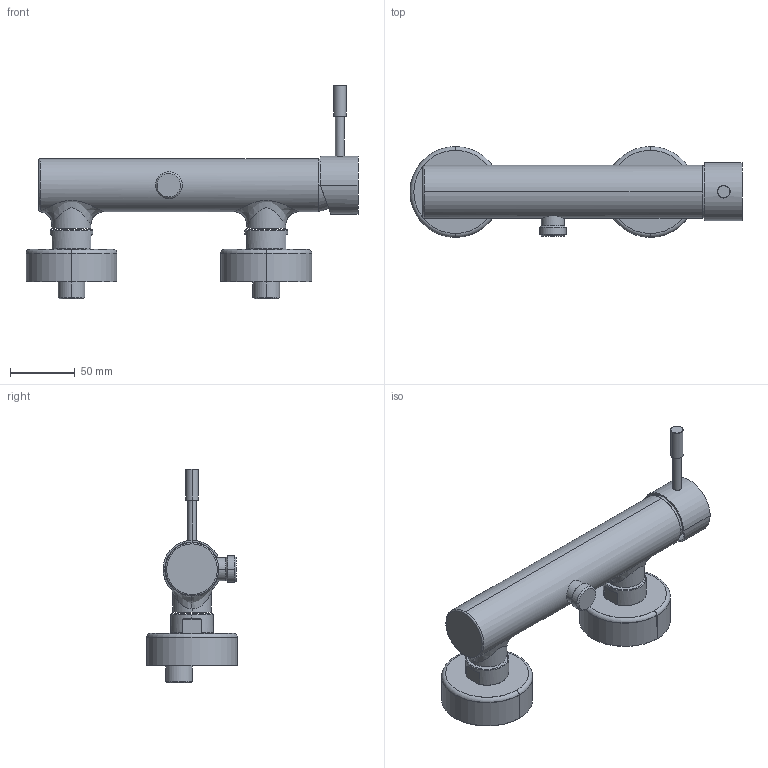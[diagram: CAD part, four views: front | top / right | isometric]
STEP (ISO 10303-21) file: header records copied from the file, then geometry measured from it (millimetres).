
FILE_DESCRIPTION((''),'2;1');
FILE_NAME('F3245_FILE_3D','2014-09-01T',('ivanv'),(''),'PRO/ENGINEER BY PARAMETRIC TECHNOLOGY CORPORATION, 2012130','PRO/ENGINEER BY PARAMETRIC TECHNOLOGY CORPORATION, 2012130','');
FILE_SCHEMA(('CONFIG_CONTROL_DESIGN'));
Length unit declared in the file: millimetre
Products named in the file (1): F3245_FILE_3D
Bounding box: 255.6 x 70 x 164.5 mm (x, y, z)
Volume: 203802.3 mm3; surface area: 141316.3 mm2
Topology: 4 solids, 7 shells, 299 faces, 703 edges, 432 vertices
Faces by surface type: cylinder 115, plane 91, cone 46, torus 27, bspline 20
Entity records: 11707 total; most frequent: CARTESIAN_POINT 4944, DIRECTION 1427, ORIENTED_EDGE 1390, EDGE_CURVE 695, AXIS2_PLACEMENT_3D 595, VERTEX_POINT 430, EDGE_LOOP 329, CIRCLE 316
